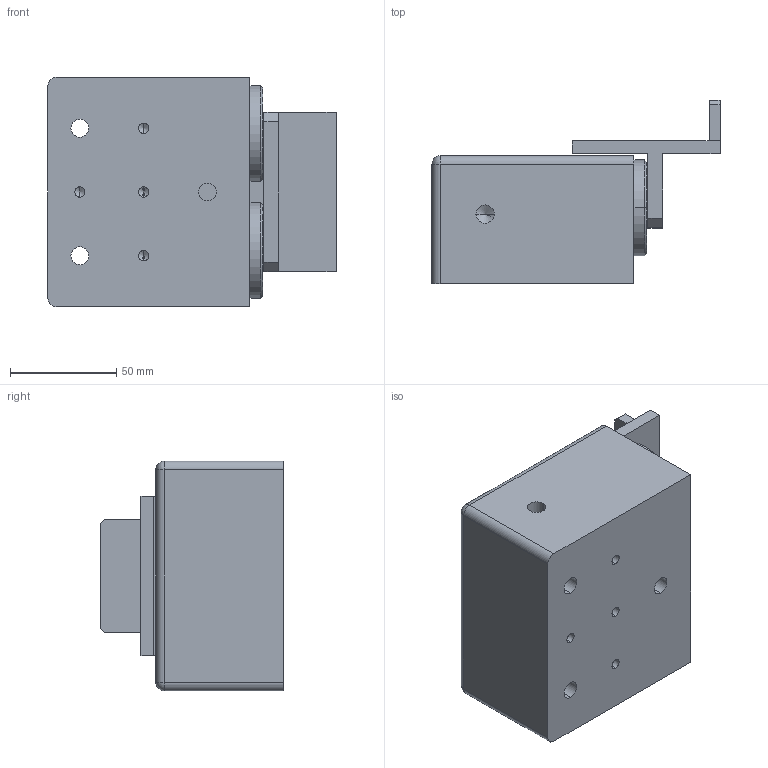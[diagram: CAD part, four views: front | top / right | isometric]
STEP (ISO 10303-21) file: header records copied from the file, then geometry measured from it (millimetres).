
FILE_DESCRIPTION (( 'STEP AP203' ), '1' );
FILE_NAME ('DESHB300.STEP', '2008-09-25T05:52:18', ( '' ), ( '' ), 'SwSTEP 2.0', 'SolidWorks 2007', '' );
FILE_SCHEMA (( 'CONFIG_CONTROL_DESIGN' ));
Length unit declared in the file: millimetre
Products named in the file (1): DESHB300
Bounding box: 135.5 x 86 x 108 mm (x, y, z)
Volume: 672503.2 mm3; surface area: 70973.9 mm2
Topology: 1 solids, 1 shells, 113 faces, 273 edges, 169 vertices
Faces by surface type: plane 52, cylinder 41, cone 18, sphere 2
Entity records: 3306 total; most frequent: DIRECTION 587, CARTESIAN_POINT 544, ORIENTED_EDGE 522, EDGE_CURVE 261, AXIS2_PLACEMENT_3D 212, VERTEX_POINT 169, LINE 163, VECTOR 163
